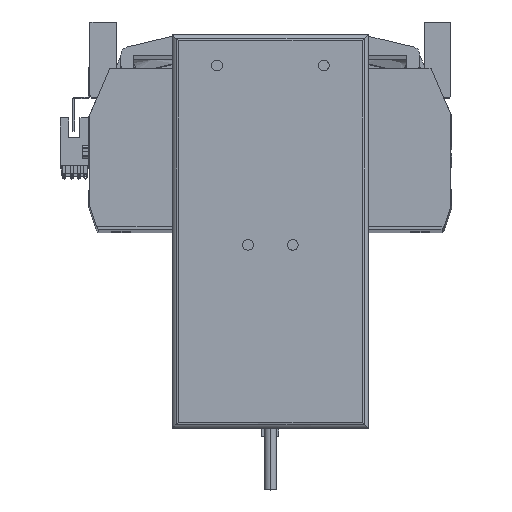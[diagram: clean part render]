
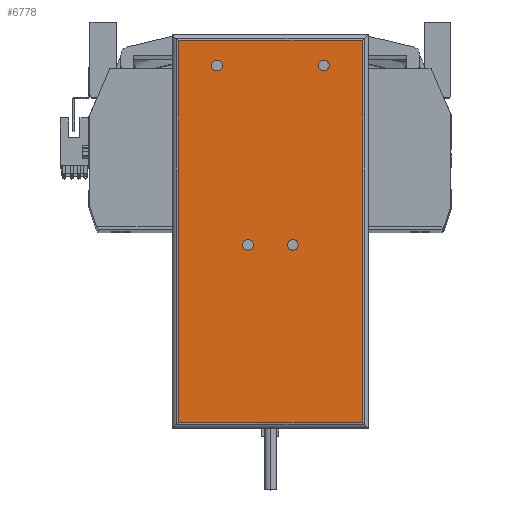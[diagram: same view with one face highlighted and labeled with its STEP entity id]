
A CAD part, top view. The second image highlights one B-rep face of the part: STEP entity #6778.
In plain terms, the highlighted planar face has unit normal (0, 0, 1) as drawn and (0, 0, -1) by its records, which use the part's own axes.
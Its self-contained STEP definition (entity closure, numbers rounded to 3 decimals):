
#429 = EDGE_CURVE ( 'NONE', #38434, #17981, #45398, .T. ) ;
#450 = VERTEX_POINT ( 'NONE', #44055 ) ;
#582 = CARTESIAN_POINT ( 'NONE',  ( -43., 89.25, 0. ) ) ;
#764 = DIRECTION ( 'NONE',  ( 0., 1., 0. ) ) ;
#958 = ORIENTED_EDGE ( 'NONE', *, *, #32897, .T. ) ;
#1933 = VECTOR ( 'NONE', #18293, 1000. ) ;
#2559 = DIRECTION ( 'NONE',  ( 0., 0., -1. ) ) ;
#3814 = AXIS2_PLACEMENT_3D ( 'NONE', #14202, #21973, #40830 ) ;
#3926 = VERTEX_POINT ( 'NONE', #22891 ) ;
#4023 = CIRCLE ( 'NONE', #29016, 2.5 ) ;
#4028 = VERTEX_POINT ( 'NONE', #19904 ) ;
#4160 = FACE_BOUND ( 'NONE', #49149, .T. ) ;
#4207 = DIRECTION ( 'NONE',  ( -1., 0., 0. ) ) ;
#4409 = CIRCLE ( 'NONE', #48283, 2.5 ) ;
#4601 = ORIENTED_EDGE ( 'NONE', *, *, #4926, .F. ) ;
#4742 = FACE_BOUND ( 'NONE', #16489, .T. ) ;
#4926 = EDGE_CURVE ( 'NONE', #18853, #40465, #17959, .T. ) ;
#5872 = AXIS2_PLACEMENT_3D ( 'NONE', #40144, #32361, #47592 ) ;
#6778 = ADVANCED_FACE ( 'NONE', ( #14233, #4742, #11832, #10021, #4160 ), #43684, .F. ) ;
#6971 = ORIENTED_EDGE ( 'NONE', *, *, #47873, .F. ) ;
#7338 = AXIS2_PLACEMENT_3D ( 'NONE', #32777, #9780, #36260 ) ;
#7547 = CARTESIAN_POINT ( 'NONE',  ( -8., -6.25, 0. ) ) ;
#7565 = CARTESIAN_POINT ( 'NONE',  ( 25., 77.75, 0. ) ) ;
#7571 = ORIENTED_EDGE ( 'NONE', *, *, #23946, .F. ) ;
#7767 = ORIENTED_EDGE ( 'NONE', *, *, #41638, .T. ) ;
#8949 = EDGE_LOOP ( 'NONE', ( #13701, #6971 ) ) ;
#9653 = CARTESIAN_POINT ( 'NONE',  ( -46., -89.25, 0. ) ) ;
#9780 = DIRECTION ( 'NONE',  ( 0., 0., 1. ) ) ;
#10021 = FACE_BOUND ( 'NONE', #8949, .T. ) ;
#10210 = DIRECTION ( 'NONE',  ( 0., 0., -1. ) ) ;
#10761 = EDGE_CURVE ( 'NONE', #17981, #38434, #4023, .T. ) ;
#11027 = DIRECTION ( 'NONE',  ( -1., 0., 0. ) ) ;
#11448 = DIRECTION ( 'NONE',  ( 1., 0., 0. ) ) ;
#11832 = FACE_BOUND ( 'NONE', #22781, .T. ) ;
#13353 = VERTEX_POINT ( 'NONE', #16587 ) ;
#13701 = ORIENTED_EDGE ( 'NONE', *, *, #27724, .F. ) ;
#14202 = CARTESIAN_POINT ( 'NONE',  ( 10.5, -6.25, 0. ) ) ;
#14233 = FACE_OUTER_BOUND ( 'NONE', #18124, .T. ) ;
#14711 = CARTESIAN_POINT ( 'NONE',  ( 22.5, 77.75, 0. ) ) ;
#15920 = CIRCLE ( 'NONE', #20576, 2.5 ) ;
#16009 = CARTESIAN_POINT ( 'NONE',  ( 43., -92.25, 0. ) ) ;
#16381 = ORIENTED_EDGE ( 'NONE', *, *, #31610, .F. ) ;
#16489 = EDGE_LOOP ( 'NONE', ( #37005, #45078 ) ) ;
#16587 = CARTESIAN_POINT ( 'NONE',  ( 43., -89.25, 0. ) ) ;
#17790 = AXIS2_PLACEMENT_3D ( 'NONE', #40228, #44144, #32761 ) ;
#17959 = CIRCLE ( 'NONE', #3814, 2.5 ) ;
#17981 = VERTEX_POINT ( 'NONE', #7547 ) ;
#18124 = EDGE_LOOP ( 'NONE', ( #958, #7767, #29951, #46224 ) ) ;
#18293 = DIRECTION ( 'NONE',  ( -1., 0., 0. ) ) ;
#18726 = VERTEX_POINT ( 'NONE', #14711 ) ;
#18853 = VERTEX_POINT ( 'NONE', #45271 ) ;
#19904 = CARTESIAN_POINT ( 'NONE',  ( -43., -89.25, 0. ) ) ;
#20576 = AXIS2_PLACEMENT_3D ( 'NONE', #40201, #10210, #43806 ) ;
#20995 = VERTEX_POINT ( 'NONE', #582 ) ;
#21092 = LINE ( 'NONE', #16009, #38249 ) ;
#21504 = LINE ( 'NONE', #9653, #1933 ) ;
#21973 = DIRECTION ( 'NONE',  ( 0., 0., -1. ) ) ;
#22781 = EDGE_LOOP ( 'NONE', ( #4601, #16381 ) ) ;
#22891 = CARTESIAN_POINT ( 'NONE',  ( 27.5, 77.75, 0. ) ) ;
#23794 = CIRCLE ( 'NONE', #40645, 2.5 ) ;
#23946 = EDGE_CURVE ( 'NONE', #3926, #18726, #15920, .T. ) ;
#24656 = VERTEX_POINT ( 'NONE', #31898 ) ;
#26136 = CARTESIAN_POINT ( 'NONE',  ( 43., 89.25, 0. ) ) ;
#26841 = DIRECTION ( 'NONE',  ( 0., 0., -1. ) ) ;
#27404 = AXIS2_PLACEMENT_3D ( 'NONE', #39124, #2559, #42891 ) ;
#27724 = EDGE_CURVE ( 'NONE', #450, #24656, #23794, .T. ) ;
#27793 = CARTESIAN_POINT ( 'NONE',  ( -10.5, -6.25, 0. ) ) ;
#29016 = AXIS2_PLACEMENT_3D ( 'NONE', #27793, #42517, #35427 ) ;
#29951 = ORIENTED_EDGE ( 'NONE', *, *, #39532, .T. ) ;
#31156 = CARTESIAN_POINT ( 'NONE',  ( -25., 77.75, 0. ) ) ;
#31235 = CARTESIAN_POINT ( 'NONE',  ( -43., -92.25, 0. ) ) ;
#31610 = EDGE_CURVE ( 'NONE', #40465, #18853, #48419, .T. ) ;
#31898 = CARTESIAN_POINT ( 'NONE',  ( -22.5, 77.75, 0. ) ) ;
#32361 = DIRECTION ( 'NONE',  ( 0., 0., -1. ) ) ;
#32761 = DIRECTION ( 'NONE',  ( -1., 0., 0. ) ) ;
#32777 = CARTESIAN_POINT ( 'NONE',  ( -46., -92.25, 0. ) ) ;
#32897 = EDGE_CURVE ( 'NONE', #48542, #13353, #21092, .T. ) ;
#33413 = VECTOR ( 'NONE', #764, 1000. ) ;
#34362 = VECTOR ( 'NONE', #11448, 1000. ) ;
#35427 = DIRECTION ( 'NONE',  ( -1., 0., 0. ) ) ;
#36260 = DIRECTION ( 'NONE',  ( 1., 0., 0. ) ) ;
#36339 = CARTESIAN_POINT ( 'NONE',  ( -13., -6.25, 0. ) ) ;
#36952 = LINE ( 'NONE', #31235, #33413 ) ;
#37005 = ORIENTED_EDGE ( 'NONE', *, *, #429, .F. ) ;
#37767 = CARTESIAN_POINT ( 'NONE',  ( -46., 89.25, 0. ) ) ;
#38249 = VECTOR ( 'NONE', #45906, 1000. ) ;
#38434 = VERTEX_POINT ( 'NONE', #36339 ) ;
#38963 = ORIENTED_EDGE ( 'NONE', *, *, #39424, .F. ) ;
#39124 = CARTESIAN_POINT ( 'NONE',  ( -10.5, -6.25, 0. ) ) ;
#39424 = EDGE_CURVE ( 'NONE', #18726, #3926, #4409, .T. ) ;
#39532 = EDGE_CURVE ( 'NONE', #4028, #20995, #36952, .T. ) ;
#40144 = CARTESIAN_POINT ( 'NONE',  ( 10.5, -6.25, 0. ) ) ;
#40201 = CARTESIAN_POINT ( 'NONE',  ( 25., 77.75, 0. ) ) ;
#40228 = CARTESIAN_POINT ( 'NONE',  ( -25., 77.75, 0. ) ) ;
#40465 = VERTEX_POINT ( 'NONE', #42848 ) ;
#40645 = AXIS2_PLACEMENT_3D ( 'NONE', #31156, #26841, #4207 ) ;
#40830 = DIRECTION ( 'NONE',  ( -1., 0., 0. ) ) ;
#41638 = EDGE_CURVE ( 'NONE', #13353, #4028, #21504, .T. ) ;
#42517 = DIRECTION ( 'NONE',  ( 0., 0., -1. ) ) ;
#42848 = CARTESIAN_POINT ( 'NONE',  ( 13., -6.25, 0. ) ) ;
#42891 = DIRECTION ( 'NONE',  ( -1., 0., 0. ) ) ;
#43266 = LINE ( 'NONE', #37767, #34362 ) ;
#43684 = PLANE ( 'NONE',  #7338 ) ;
#43806 = DIRECTION ( 'NONE',  ( -1., 0., 0. ) ) ;
#43884 = EDGE_CURVE ( 'NONE', #20995, #48542, #43266, .T. ) ;
#44055 = CARTESIAN_POINT ( 'NONE',  ( -27.5, 77.75, 0. ) ) ;
#44144 = DIRECTION ( 'NONE',  ( 0., 0., -1. ) ) ;
#44732 = CIRCLE ( 'NONE', #17790, 2.5 ) ;
#44954 = DIRECTION ( 'NONE',  ( 0., 0., -1. ) ) ;
#45078 = ORIENTED_EDGE ( 'NONE', *, *, #10761, .F. ) ;
#45271 = CARTESIAN_POINT ( 'NONE',  ( 8., -6.25, 0. ) ) ;
#45398 = CIRCLE ( 'NONE', #27404, 2.5 ) ;
#45906 = DIRECTION ( 'NONE',  ( 0., -1., 0. ) ) ;
#46224 = ORIENTED_EDGE ( 'NONE', *, *, #43884, .T. ) ;
#47592 = DIRECTION ( 'NONE',  ( -1., 0., 0. ) ) ;
#47873 = EDGE_CURVE ( 'NONE', #24656, #450, #44732, .T. ) ;
#48283 = AXIS2_PLACEMENT_3D ( 'NONE', #7565, #44954, #11027 ) ;
#48419 = CIRCLE ( 'NONE', #5872, 2.5 ) ;
#48542 = VERTEX_POINT ( 'NONE', #26136 ) ;
#49149 = EDGE_LOOP ( 'NONE', ( #38963, #7571 ) ) ;
